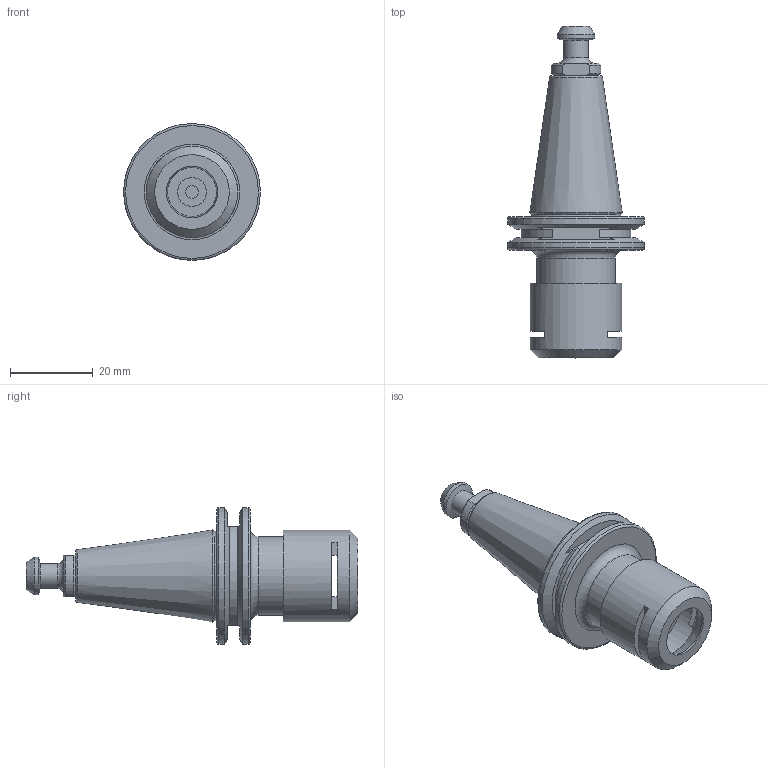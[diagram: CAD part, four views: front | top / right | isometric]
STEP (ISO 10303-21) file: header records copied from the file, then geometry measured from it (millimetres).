
FILE_DESCRIPTION(/* description */ (''),/* implementation_level */ '2;1');
FILE_NAME(/* name */ 'ISO20-ER16MS-035L.stp',/* time_stamp */ '2025-05-07T14:56:26+03:00',/* author */ ('User'),/* organization */ (''),/* preprocessor_version */ 'ST-DEVELOPER v19.2',/* originating_system */ 'Autodesk Inventor 2024',/* authorisation */ '');
FILE_SCHEMA (('AUTOMOTIVE_DESIGN { 1 0 10303 214 3 1 1 }'));
Length unit declared in the file: millimetre
Products named in the file (4): ISO20-ER16MS-035L; ISO20-ER16MS-035L_1; Гайка ER16A М19х1; Штревель_ISO20
Assembly tree (3 placements, depth 2):
  ISO20-ER16MS-035L
    ISO20-ER16MS-035L_1
    Гайка ER16A М19х1
    Штревель_ISO20
Bounding box: 33 x 80 x 33 mm (x, y, z)
Volume: 17762.2 mm3; surface area: 10665.7 mm2
Topology: 3 solids, 3 shells, 83 faces, 194 edges, 126 vertices
Faces by surface type: plane 37, cylinder 22, cone 17, torus 7
Full cylindrical faces by diameter (mm): 3 x2, 6 x1, 6.5 x1, 7 x1, 8 x2, 8.5 x2, 9 x1, 11.784 x1, 12.5 x1, 18 x1, 19 x1, 21.5 x1, 22 x1, 33 x2
Entity records: 2582 total; most frequent: DIRECTION 463, CARTESIAN_POINT 442, ORIENTED_EDGE 388, AXIS2_PLACEMENT_3D 195, EDGE_CURVE 194, VERTEX_POINT 126, CIRCLE 105, EDGE_LOOP 100
